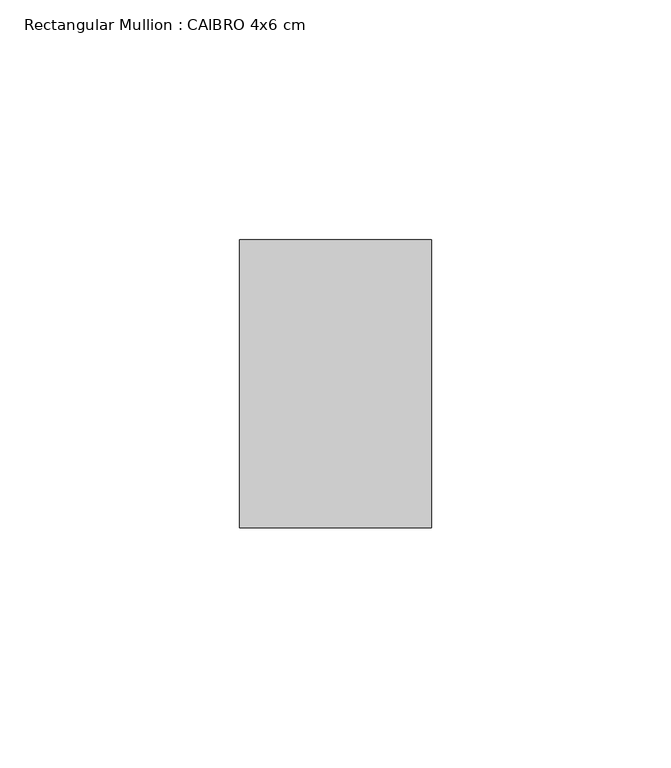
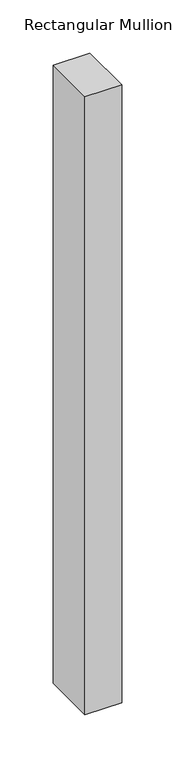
"""IFC4 building model written with IfcOpenShell, lengths in millimetres: member geometry, Rectangular Mullion : CAIBRO 4x6 cm."""

from ifc_helpers import new_model, si_unit, frame, origin, place, context, project, spatial, polyline, outline, extrude, source, transform, mapped, element, save


def rectangular_mullion_caibro_4x6_cm_55eea3d4(model_context):
    return source(origin(), model_context, "Body", "SweptSolid", [
        extrude(outline(polyline([(0.0, 60.0), (0.0, 0.0), (-40.0, 0.0), (-40.0, 60.0), (0.0, 60.0)])), frame((0.0, 0.0, -709.9486998), z_axis=(0.0, 0.0, 1.0), x_axis=(1.0, 0.0, 0.0)), (0.0, 0.0, 1.0), 709.9486998),
    ])


if __name__ == "__main__":
    model = new_model("IFC4")
    model_context = context("Model", 3, world=origin())
    ifc_project = project(units=[si_unit("LENGTHUNIT", "METRE", prefix="MILLI")], contexts=[model_context])
    site = spatial("IfcSite", under=ifc_project)
    building = spatial("IfcBuilding", under=site)
    placement = place(None, origin())
    rectangular_mullion_caibro_4x6_cm_shape = rectangular_mullion_caibro_4x6_cm_55eea3d4(model_context)
    element("IfcMember", 1, ObjectType="Rectangular Mullion : CAIBRO 4x6 cm", at=placement, inside=building, context=model_context, shape_type="MappedRepresentation", body=[
        mapped(rectangular_mullion_caibro_4x6_cm_shape, transform((0.0, 0.0, 0.0), x_axis=(1.0, 0.0, 0.0), y_axis=(0.0, 1.0, 0.0), z_axis=(0.0, 0.0, 1.0))),
    ])
    save(model, "model.ifc")
